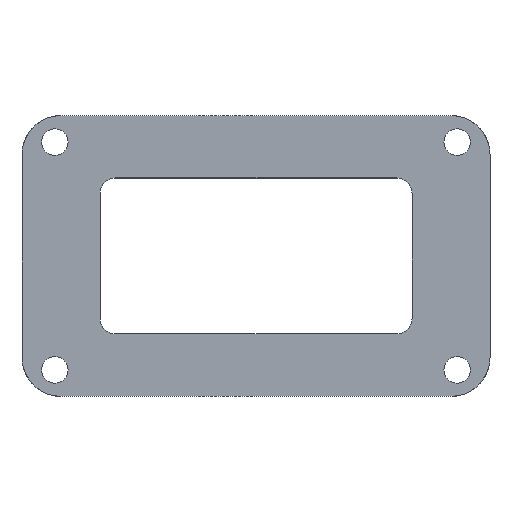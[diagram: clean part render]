
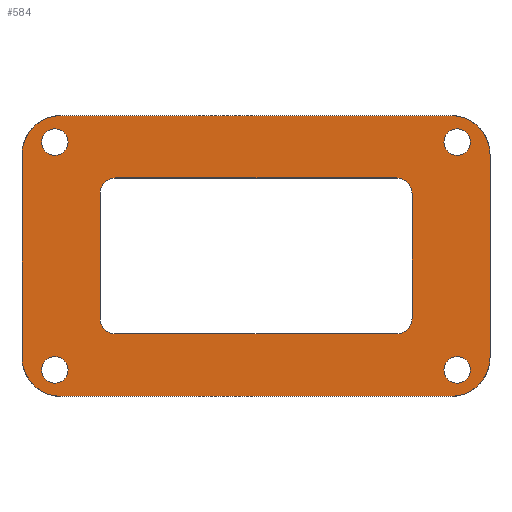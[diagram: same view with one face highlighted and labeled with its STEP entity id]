
A CAD part, top view. The second image highlights one B-rep face of the part: STEP entity #584.
In plain terms, the highlighted planar face has unit normal (0, 0, 1).
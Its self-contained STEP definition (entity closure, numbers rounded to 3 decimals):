
#20=FACE_BOUND('',#98,.T.);
#21=FACE_BOUND('',#99,.T.);
#22=FACE_BOUND('',#100,.T.);
#23=FACE_BOUND('',#101,.T.);
#24=FACE_BOUND('',#102,.T.);
#35=PLANE('',#665);
#62=FACE_OUTER_BOUND('',#97,.T.);
#97=EDGE_LOOP('',(#489,#490,#491,#492,#493,#494,#495,#496));
#98=EDGE_LOOP('',(#497));
#99=EDGE_LOOP('',(#498));
#100=EDGE_LOOP('',(#499));
#101=EDGE_LOOP('',(#500));
#102=EDGE_LOOP('',(#501,#502,#503,#504,#505,#506,#507,#508));
#137=CIRCLE('',#643,1.7);
#138=CIRCLE('',#645,1.7);
#139=CIRCLE('',#647,1.7);
#140=CIRCLE('',#649,1.7);
#141=CIRCLE('',#651,2.);
#142=CIRCLE('',#654,2.);
#143=CIRCLE('',#657,2.);
#144=CIRCLE('',#659,2.);
#145=CIRCLE('',#663,5.);
#146=CIRCLE('',#666,5.);
#147=CIRCLE('',#667,5.);
#148=CIRCLE('',#668,5.);
#172=LINE('',#976,#216);
#175=LINE('',#985,#219);
#179=LINE('',#996,#223);
#180=LINE('',#998,#224);
#183=LINE('',#1007,#227);
#185=LINE('',#1011,#229);
#186=LINE('',#1015,#230);
#187=LINE('',#1019,#231);
#216=VECTOR('',#796,10.);
#219=VECTOR('',#805,10.);
#223=VECTOR('',#819,10.);
#224=VECTOR('',#822,10.);
#227=VECTOR('',#831,10.);
#229=VECTOR('',#835,10.);
#230=VECTOR('',#838,10.);
#231=VECTOR('',#841,10.);
#273=VERTEX_POINT('',#952);
#274=VERTEX_POINT('',#956);
#275=VERTEX_POINT('',#960);
#276=VERTEX_POINT('',#964);
#277=VERTEX_POINT('',#968);
#278=VERTEX_POINT('',#969);
#279=VERTEX_POINT('',#974);
#280=VERTEX_POINT('',#978);
#281=VERTEX_POINT('',#979);
#282=VERTEX_POINT('',#984);
#283=VERTEX_POINT('',#988);
#284=VERTEX_POINT('',#992);
#285=VERTEX_POINT('',#1000);
#286=VERTEX_POINT('',#1002);
#287=VERTEX_POINT('',#1006);
#288=VERTEX_POINT('',#1010);
#289=VERTEX_POINT('',#1012);
#290=VERTEX_POINT('',#1014);
#291=VERTEX_POINT('',#1016);
#292=VERTEX_POINT('',#1018);
#338=EDGE_CURVE('',#273,#273,#137,.T.);
#340=EDGE_CURVE('',#274,#274,#138,.T.);
#342=EDGE_CURVE('',#275,#275,#139,.T.);
#344=EDGE_CURVE('',#276,#276,#140,.T.);
#345=EDGE_CURVE('',#277,#278,#141,.T.);
#349=EDGE_CURVE('',#278,#279,#172,.T.);
#350=EDGE_CURVE('',#280,#281,#142,.T.);
#353=EDGE_CURVE('',#282,#280,#175,.T.);
#355=EDGE_CURVE('',#283,#282,#143,.T.);
#357=EDGE_CURVE('',#279,#284,#144,.T.);
#359=EDGE_CURVE('',#284,#283,#179,.T.);
#360=EDGE_CURVE('',#281,#277,#180,.T.);
#362=EDGE_CURVE('',#285,#286,#145,.T.);
#364=EDGE_CURVE('',#287,#286,#183,.T.);
#366=EDGE_CURVE('',#285,#288,#185,.T.);
#367=EDGE_CURVE('',#289,#288,#146,.T.);
#368=EDGE_CURVE('',#289,#290,#186,.T.);
#369=EDGE_CURVE('',#291,#290,#147,.T.);
#370=EDGE_CURVE('',#291,#292,#187,.T.);
#371=EDGE_CURVE('',#287,#292,#148,.T.);
#489=ORIENTED_EDGE('',*,*,#362,.F.);
#490=ORIENTED_EDGE('',*,*,#366,.T.);
#491=ORIENTED_EDGE('',*,*,#367,.F.);
#492=ORIENTED_EDGE('',*,*,#368,.T.);
#493=ORIENTED_EDGE('',*,*,#369,.F.);
#494=ORIENTED_EDGE('',*,*,#370,.T.);
#495=ORIENTED_EDGE('',*,*,#371,.F.);
#496=ORIENTED_EDGE('',*,*,#364,.T.);
#497=ORIENTED_EDGE('',*,*,#338,.T.);
#498=ORIENTED_EDGE('',*,*,#340,.T.);
#499=ORIENTED_EDGE('',*,*,#342,.T.);
#500=ORIENTED_EDGE('',*,*,#344,.T.);
#501=ORIENTED_EDGE('',*,*,#350,.T.);
#502=ORIENTED_EDGE('',*,*,#360,.T.);
#503=ORIENTED_EDGE('',*,*,#345,.T.);
#504=ORIENTED_EDGE('',*,*,#349,.T.);
#505=ORIENTED_EDGE('',*,*,#357,.T.);
#506=ORIENTED_EDGE('',*,*,#359,.T.);
#507=ORIENTED_EDGE('',*,*,#355,.T.);
#508=ORIENTED_EDGE('',*,*,#353,.T.);
#584=ADVANCED_FACE('',(#62,#20,#21,#22,#23,#24),#35,.T.);
#643=AXIS2_PLACEMENT_3D('',#954,#770,#771);
#645=AXIS2_PLACEMENT_3D('',#958,#775,#776);
#647=AXIS2_PLACEMENT_3D('',#962,#780,#781);
#649=AXIS2_PLACEMENT_3D('',#966,#785,#786);
#651=AXIS2_PLACEMENT_3D('',#970,#789,#790);
#654=AXIS2_PLACEMENT_3D('',#980,#799,#800);
#657=AXIS2_PLACEMENT_3D('',#989,#809,#810);
#659=AXIS2_PLACEMENT_3D('',#993,#814,#815);
#663=AXIS2_PLACEMENT_3D('',#1003,#826,#827);
#665=AXIS2_PLACEMENT_3D('',#1009,#833,#834);
#666=AXIS2_PLACEMENT_3D('',#1013,#836,#837);
#667=AXIS2_PLACEMENT_3D('',#1017,#839,#840);
#668=AXIS2_PLACEMENT_3D('',#1020,#842,#843);
#770=DIRECTION('center_axis',(0.,0.,-1.));
#771=DIRECTION('ref_axis',(1.,0.,0.));
#775=DIRECTION('center_axis',(0.,0.,-1.));
#776=DIRECTION('ref_axis',(1.,0.,0.));
#780=DIRECTION('center_axis',(0.,0.,-1.));
#781=DIRECTION('ref_axis',(1.,0.,0.));
#785=DIRECTION('center_axis',(0.,0.,-1.));
#786=DIRECTION('ref_axis',(1.,0.,0.));
#789=DIRECTION('center_axis',(0.,0.,-1.));
#790=DIRECTION('ref_axis',(-0.707,-0.707,0.));
#796=DIRECTION('',(0.,1.,0.));
#799=DIRECTION('center_axis',(0.,0.,-1.));
#800=DIRECTION('ref_axis',(0.707,-0.707,0.));
#805=DIRECTION('',(0.,-1.,0.));
#809=DIRECTION('center_axis',(0.,0.,-1.));
#810=DIRECTION('ref_axis',(0.707,0.707,0.));
#814=DIRECTION('center_axis',(0.,0.,-1.));
#815=DIRECTION('ref_axis',(-0.707,0.707,0.));
#819=DIRECTION('',(1.,0.,0.));
#822=DIRECTION('',(-1.,0.,0.));
#826=DIRECTION('center_axis',(0.,0.,-1.));
#827=DIRECTION('ref_axis',(-0.707,-0.707,0.));
#831=DIRECTION('',(0.,-1.,0.));
#833=DIRECTION('center_axis',(0.,0.,1.));
#834=DIRECTION('ref_axis',(1.,0.,0.));
#835=DIRECTION('',(1.,0.,0.));
#836=DIRECTION('center_axis',(0.,0.,-1.));
#837=DIRECTION('ref_axis',(0.707,-0.707,0.));
#838=DIRECTION('',(0.,1.,0.));
#839=DIRECTION('center_axis',(0.,0.,-1.));
#840=DIRECTION('ref_axis',(0.707,0.707,0.));
#841=DIRECTION('',(-1.,0.,0.));
#842=DIRECTION('center_axis',(0.,0.,-1.));
#843=DIRECTION('ref_axis',(-0.707,0.707,0.));
#952=CARTESIAN_POINT('',(11.6,14.6,25.3));
#954=CARTESIAN_POINT('Origin',(13.3,14.6,25.3));
#956=CARTESIAN_POINT('',(-40.,14.6,25.3));
#958=CARTESIAN_POINT('Origin',(-38.3,14.6,25.3));
#960=CARTESIAN_POINT('',(11.6,-14.6,25.3));
#962=CARTESIAN_POINT('Origin',(13.3,-14.6,25.3));
#964=CARTESIAN_POINT('',(-40.,-14.6,25.3));
#966=CARTESIAN_POINT('Origin',(-38.3,-14.6,25.3));
#968=CARTESIAN_POINT('',(-30.5,-10.,25.3));
#969=CARTESIAN_POINT('',(-32.5,-8.,25.3));
#970=CARTESIAN_POINT('Origin',(-30.5,-8.,25.3));
#974=CARTESIAN_POINT('',(-32.5,8.,25.3));
#976=CARTESIAN_POINT('',(-32.5,5.,25.3));
#978=CARTESIAN_POINT('',(7.5,-8.,25.3));
#979=CARTESIAN_POINT('',(5.5,-10.,25.3));
#980=CARTESIAN_POINT('Origin',(5.5,-8.,25.3));
#984=CARTESIAN_POINT('',(7.5,8.,25.3));
#985=CARTESIAN_POINT('',(7.5,-5.,25.3));
#988=CARTESIAN_POINT('',(5.5,10.,25.3));
#989=CARTESIAN_POINT('Origin',(5.5,8.,25.3));
#992=CARTESIAN_POINT('',(-30.5,10.,25.3));
#993=CARTESIAN_POINT('Origin',(-30.5,8.,25.3));
#996=CARTESIAN_POINT('',(-2.5,10.,25.3));
#998=CARTESIAN_POINT('',(-22.5,-10.,25.3));
#1000=CARTESIAN_POINT('',(-37.5,-18.,25.3));
#1002=CARTESIAN_POINT('',(-42.5,-13.,25.3));
#1003=CARTESIAN_POINT('Origin',(-37.5,-13.,25.3));
#1006=CARTESIAN_POINT('',(-42.5,13.,25.3));
#1007=CARTESIAN_POINT('',(-42.5,18.,25.3));
#1009=CARTESIAN_POINT('Origin',(-12.5,0.,25.3));
#1010=CARTESIAN_POINT('',(12.5,-18.,25.3));
#1011=CARTESIAN_POINT('',(-42.5,-18.,25.3));
#1012=CARTESIAN_POINT('',(17.5,-13.,25.3));
#1013=CARTESIAN_POINT('Origin',(12.5,-13.,25.3));
#1014=CARTESIAN_POINT('',(17.5,13.,25.3));
#1015=CARTESIAN_POINT('',(17.5,-18.,25.3));
#1016=CARTESIAN_POINT('',(12.5,18.,25.3));
#1017=CARTESIAN_POINT('Origin',(12.5,13.,25.3));
#1018=CARTESIAN_POINT('',(-37.5,18.,25.3));
#1019=CARTESIAN_POINT('',(17.5,18.,25.3));
#1020=CARTESIAN_POINT('Origin',(-37.5,13.,25.3));
